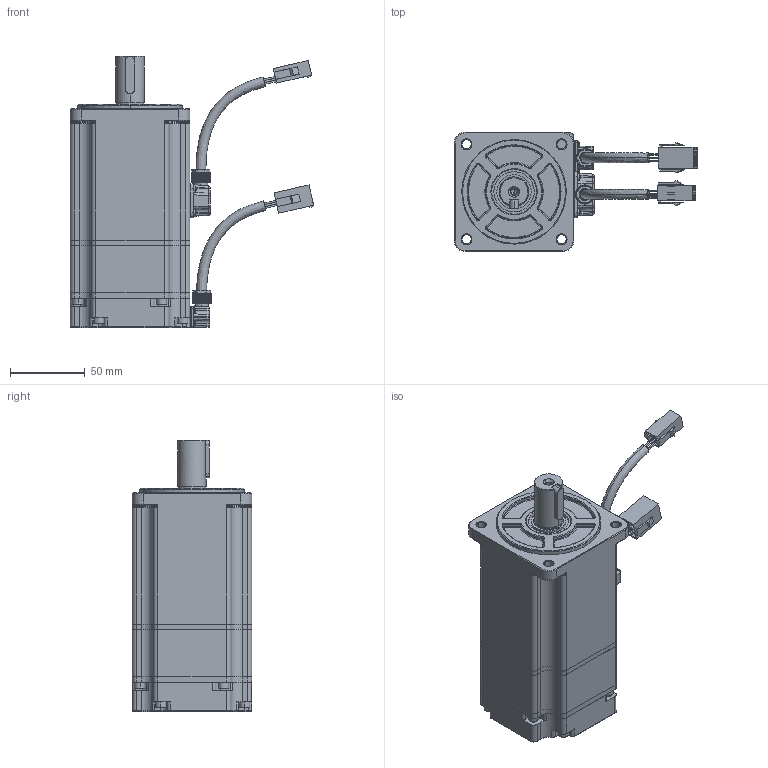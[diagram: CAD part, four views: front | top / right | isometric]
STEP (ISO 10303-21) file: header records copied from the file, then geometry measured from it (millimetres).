
FILE_DESCRIPTION (( 'STEP AP203' ), '1' );
FILE_NAME ('80 1000w.STEP', '2024-08-01T08:35:02', ( 'MicroSoft' ), ( 'MicroSoft' ), 'SwSTEP 2.0', 'SolidWorks 2020', '' );
FILE_SCHEMA (( 'CONFIG_CONTROL_DESIGN' ));
Length unit declared in the file: millimetre
Products named in the file (20): 塑壳接插座-9芯(母头线束端); 80呿蹋裔.stp; 80儂褲党蜊(1); GB／T276-94深沟球轴承6201-2RZ; GB╱T 818-2000[十字槽盘头螺钉M2×6]_M2×6; GB╱T 70.1-2008[内六角圆柱头螺钉M4×25]_M4×25; M4X50 囀鞠褒蹟邡_M4 x 50; GB／T276-94深沟球轴承6004-2RZ; 80Aす瑩(6-6-25); 晤鎢ん2.stp; 萇埭盄; ZE80制动机壳-德禹） - 光电 X_1000W; ZE 80陔秶雄綴裔-1; Z80A-01-01A(80粣秶雄遴)_1000W; 80 1000w; 晤鎢ん1.stp; 嘎殤蚐猾30-20-4; 陓瘍盄 (2); ZE80綴裔2-秶雄; 塑壳接插座-4芯(母头线束端)
Assembly tree (31 placements, depth 2):
  80 1000w
    80儂褲党蜊(1)
    Z80A-01-01A(80粣秶雄遴)_1000W
    GB／T276-94深沟球轴承6201-2RZ
    嘎殤蚐猾30-20-4
    80Aす瑩(6-6-25)
    80呿蹋裔.stp
    晤鎢ん1.stp
    晤鎢ん2.stp
    GB╱T 818-2000[十字槽盘头螺钉M2×6]_M2×6  x8
    GB╱T 70.1-2008[内六角圆柱头螺钉M4×25]_M4×25  x4
    塑壳接插座-4芯(母头线束端)
    塑壳接插座-9芯(母头线束端)
    萇埭盄
    陓瘍盄 (2)
    GB／T276-94深沟球轴承6004-2RZ
    ZE80制动机壳-德禹） - 光电 X_1000W
    ZE80綴裔2-秶雄
    M4X50 囀鞠褒蹟邡_M4 x 50  x3
    ZE 80陔秶雄綴裔-1
Bounding box: 162.97 x 80 x 181.5 mm (x, y, z)
Volume: 307498.8 mm3; surface area: 194089.4 mm2
Topology: 31 solids, 32 shells, 3883 faces, 10053 edges, 6150 vertices
Faces by surface type: plane 1277, cylinder 984, bspline 631, cone 471, torus 332, sphere 188
Entity records: 131429 total; most frequent: CARTESIAN_POINT 51213, ORIENTED_EDGE 17282, DIRECTION 14963, EDGE_CURVE 8641, AXIS2_PLACEMENT_3D 5795, VERTEX_POINT 5436, EDGE_LOOP 3685, LINE 3373
